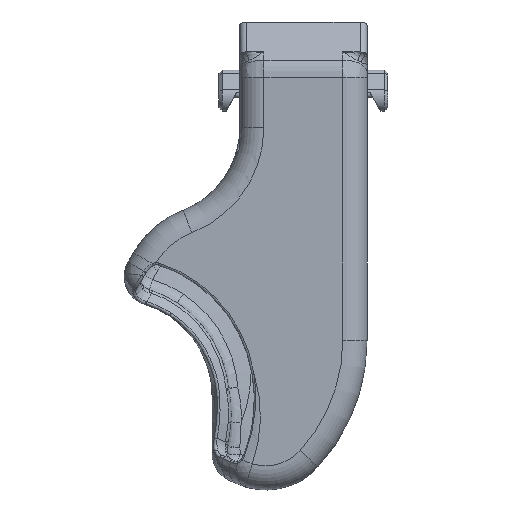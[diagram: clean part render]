
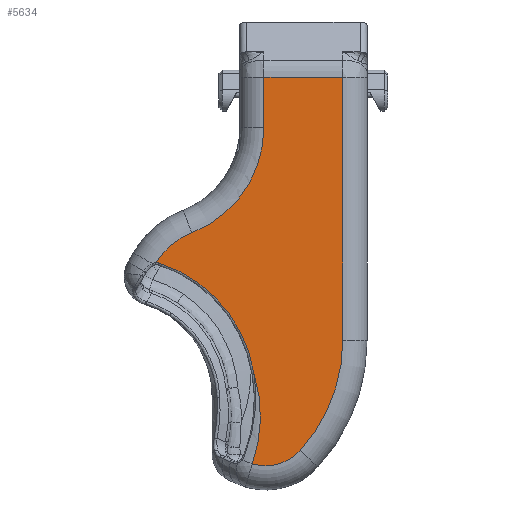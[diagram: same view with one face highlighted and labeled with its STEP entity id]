
A CAD part, front view. The second image highlights one B-rep face of the part: STEP entity #5634.
In plain terms, the highlighted planar face has unit normal (0, -1, 0).
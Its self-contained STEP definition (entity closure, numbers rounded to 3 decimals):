
#224=PLANE('',#6217);
#711=FACE_OUTER_BOUND('',#1064,.T.);
#1064=EDGE_LOOP('',(#5008,#5009,#5010,#5011,#5012,#5013,#5014,#5015,#5016,
#5017));
#1158=ELLIPSE('',#6218,2.666,1.386);
#1457=CIRCLE('',#5772,6.7);
#1465=CIRCLE('',#5788,23.7);
#1503=CIRCLE('',#5863,16.3);
#1692=CIRCLE('',#6205,10.7);
#1702=CIRCLE('',#6219,20.122);
#1703=CIRCLE('',#6220,20.797);
#1769=LINE('',#8773,#2006);
#1789=LINE('',#9204,#2026);
#1798=LINE('',#9378,#2035);
#2006=VECTOR('',#6451,1.);
#2026=VECTOR('',#6541,1.);
#2035=VECTOR('',#6586,1.);
#2280=VERTEX_POINT('',#8766);
#2283=VERTEX_POINT('',#8771);
#2293=VERTEX_POINT('',#8970);
#2294=VERTEX_POINT('',#8972);
#2302=VERTEX_POINT('',#9059);
#2325=VERTEX_POINT('',#9376);
#2370=VERTEX_POINT('',#10200);
#2647=VERTEX_POINT('',#17730);
#2664=VERTEX_POINT('',#18279);
#2665=VERTEX_POINT('',#18281);
#2814=EDGE_CURVE('',#2280,#2283,#1769,.T.);
#2829=EDGE_CURVE('',#2293,#2294,#1457,.F.);
#2846=EDGE_CURVE('',#2294,#2302,#1465,.F.);
#2859=EDGE_CURVE('',#2302,#2280,#1789,.F.);
#2882=EDGE_CURVE('',#2283,#2325,#1798,.F.);
#2952=EDGE_CURVE('',#2325,#2370,#1503,.T.);
#3446=EDGE_CURVE('',#2370,#2647,#1692,.F.);
#3471=EDGE_CURVE('',#2647,#2664,#1158,.T.);
#3472=EDGE_CURVE('',#2664,#2665,#1702,.T.);
#3473=EDGE_CURVE('',#2665,#2293,#1703,.T.);
#5008=ORIENTED_EDGE('',*,*,#3471,.T.);
#5009=ORIENTED_EDGE('',*,*,#3472,.T.);
#5010=ORIENTED_EDGE('',*,*,#3473,.T.);
#5011=ORIENTED_EDGE('',*,*,#2829,.T.);
#5012=ORIENTED_EDGE('',*,*,#2846,.T.);
#5013=ORIENTED_EDGE('',*,*,#2859,.T.);
#5014=ORIENTED_EDGE('',*,*,#2814,.T.);
#5015=ORIENTED_EDGE('',*,*,#2882,.T.);
#5016=ORIENTED_EDGE('',*,*,#2952,.T.);
#5017=ORIENTED_EDGE('',*,*,#3446,.T.);
#5634=ADVANCED_FACE('',(#711),#224,.F.);
#5772=AXIS2_PLACEMENT_3D('',#8974,#6479,#6480);
#5788=AXIS2_PLACEMENT_3D('',#9061,#6520,#6521);
#5863=AXIS2_PLACEMENT_3D('',#10202,#6705,#6706);
#6205=AXIS2_PLACEMENT_3D('',#17731,#7513,#7514);
#6217=AXIS2_PLACEMENT_3D('',#18278,#7537,#7538);
#6218=AXIS2_PLACEMENT_3D('',#18280,#7539,#7540);
#6219=AXIS2_PLACEMENT_3D('',#18282,#7541,#7542);
#6220=AXIS2_PLACEMENT_3D('',#18283,#7543,#7544);
#6451=DIRECTION('',(-1.,0.,0.));
#6479=DIRECTION('center_axis',(0.,1.,0.));
#6480=DIRECTION('ref_axis',(0.,0.,-1.));
#6520=DIRECTION('center_axis',(0.,1.,0.));
#6521=DIRECTION('ref_axis',(0.,0.,-1.));
#6541=DIRECTION('',(0.,0.,-1.));
#6586=DIRECTION('',(0.,0.,1.));
#6705=DIRECTION('center_axis',(0.,1.,0.));
#6706=DIRECTION('ref_axis',(0.,0.,-1.));
#7513=DIRECTION('center_axis',(0.,1.,0.));
#7514=DIRECTION('ref_axis',(0.,0.,-1.));
#7537=DIRECTION('center_axis',(0.,1.,0.));
#7538=DIRECTION('ref_axis',(-1.,0.,0.));
#7539=DIRECTION('center_axis',(0.,1.,0.));
#7540=DIRECTION('ref_axis',(0.495,0.,0.869));
#7541=DIRECTION('center_axis',(0.,1.,0.));
#7542=DIRECTION('ref_axis',(0.,0.,-1.));
#7543=DIRECTION('center_axis',(0.,1.,0.));
#7544=DIRECTION('ref_axis',(0.,0.,-1.));
#8766=CARTESIAN_POINT('',(5.7,-24.,14.99));
#8771=CARTESIAN_POINT('',(-5.7,-24.,14.99));
#8773=CARTESIAN_POINT('',(-8.345,-24.,14.99));
#8970=CARTESIAN_POINT('',(-7.365,-24.,-40.853));
#8972=CARTESIAN_POINT('',(-0.469,-24.,-38.949));
#8974=CARTESIAN_POINT('Origin',(-5.425,-24.,-34.44));
#9059=CARTESIAN_POINT('',(5.7,-24.,-23.));
#9061=CARTESIAN_POINT('Origin',(-18.,-24.,-23.));
#9204=CARTESIAN_POINT('',(5.7,-24.,-11.868));
#9376=CARTESIAN_POINT('',(-5.7,-24.,7.729));
#9378=CARTESIAN_POINT('',(-5.7,-24.,-14.825));
#10200=CARTESIAN_POINT('',(-16.112,-24.,-7.47));
#10202=CARTESIAN_POINT('Origin',(-22.,-24.,7.729));
#17730=CARTESIAN_POINT('',(-21.331,-24.,-11.792));
#17731=CARTESIAN_POINT('Origin',(-12.247,-24.,-17.448));
#18278=CARTESIAN_POINT('Origin',(0.,-24.,0.));
#18279=CARTESIAN_POINT('',(-20.921,-24.,-11.818));
#18280=CARTESIAN_POINT('Origin',(-22.1,-24.,-14.196));
#18281=CARTESIAN_POINT('',(-7.119,-24.,-27.899));
#18282=CARTESIAN_POINT('Origin',(-27.,-24.,-31.));
#18283=CARTESIAN_POINT('Origin',(-27.,-24.,-34.));
